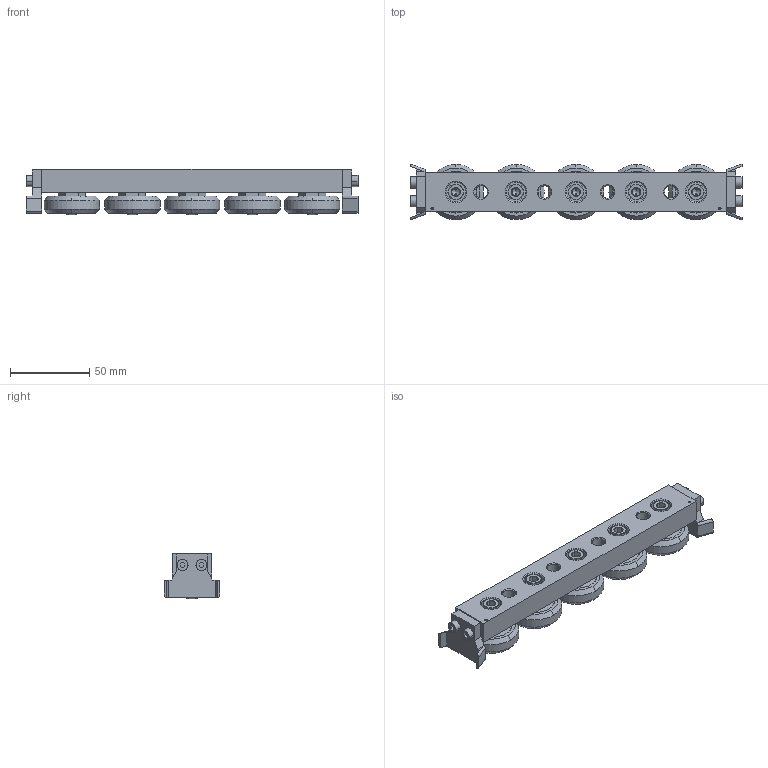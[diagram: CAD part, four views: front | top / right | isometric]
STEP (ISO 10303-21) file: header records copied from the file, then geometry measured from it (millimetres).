
FILE_DESCRIPTION (( 'STEP AP203' ), '1' );
FILE_NAME ('L1943.CSW43-190-2RSU.step', '2019-03-13T08:18:16', ( '' ), ( '' ), 'SwSTEP 2.0', 'SolidWorks 2017', '' );
FILE_SCHEMA (( 'CONFIG_CONTROL_DESIGN' ));
Length unit declared in the file: millimetre
Products named in the file (6): Part5; L1943.CSW43-190-2RSU; Part1_L1943.CSW43-190-2RSU; Part4; Part7; Part8
Assembly tree (13 placements, depth 2):
  L1943.CSW43-190-2RSU
    Part1_L1943.CSW43-190-2RSU
    Part8  x5
    Part4  x3
    Part5  x2
    Part7  x2
Bounding box: 210 x 35.4 x 28.88 mm (x, y, z)
Volume: 120995.5 mm3; surface area: 42582.7 mm2
Topology: 13 solids, 13 shells, 491 faces, 1089 edges, 662 vertices
Faces by surface type: plane 219, cone 161, cylinder 94, torus 10, bspline 7
Entity records: 7538 total; most frequent: CARTESIAN_POINT 1380, DIRECTION 1193, ORIENTED_EDGE 1026, EDGE_CURVE 513, AXIS2_PLACEMENT_3D 460, VERTEX_POINT 323, EDGE_LOOP 280, VECTOR 273
